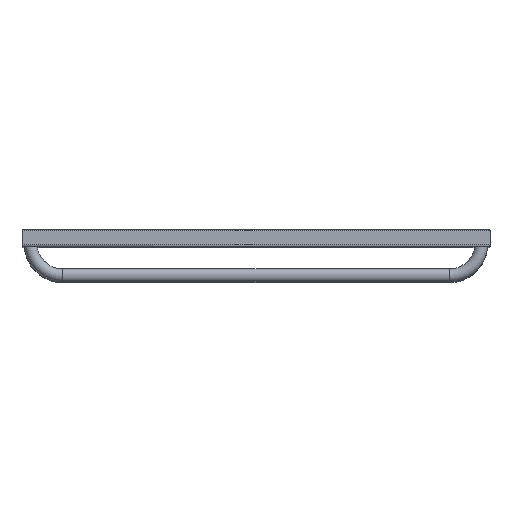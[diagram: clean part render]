
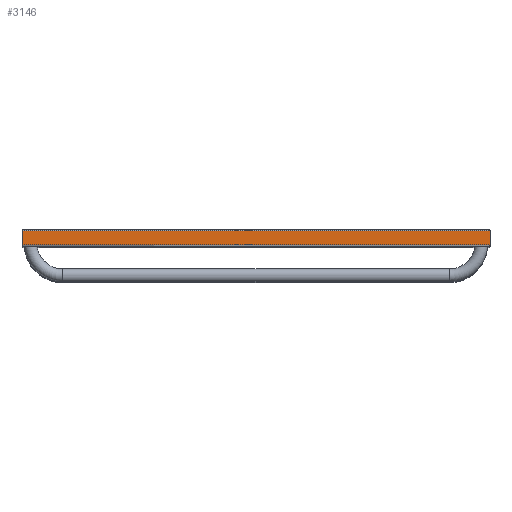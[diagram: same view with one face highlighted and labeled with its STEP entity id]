
A CAD part, top view. The second image highlights one B-rep face of the part: STEP entity #3146.
In plain terms, the highlighted planar face has unit normal (0, 0, 1).
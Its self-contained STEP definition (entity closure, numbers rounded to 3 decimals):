
#243=CARTESIAN_POINT('',(400.0,12.,1055.0));
#244=VERTEX_POINT('',#243);
#251=CARTESIAN_POINT('',(400.0,-12.,1055.0));
#252=VERTEX_POINT('',#251);
#253=CARTESIAN_POINT('',(400.0,12.,1055.0));
#254=DIRECTION('',(0.0,-1.0,0.0));
#255=VECTOR('',#254,24.);
#256=LINE('',#253,#255);
#257=EDGE_CURVE('',#244,#252,#256,.T.);
#2997=CARTESIAN_POINT('',(-400.0,12.,1055.0));
#2998=VERTEX_POINT('',#2997);
#2999=CARTESIAN_POINT('',(-400.0,12.,1055.0));
#3000=DIRECTION('',(1.0,0.0,0.0));
#3001=VECTOR('',#3000,800.0);
#3002=LINE('',#2999,#3001);
#3003=EDGE_CURVE('',#2998,#244,#3002,.T.);
#3041=CARTESIAN_POINT('',(-400.0,-12.,1055.0));
#3042=VERTEX_POINT('',#3041);
#3049=CARTESIAN_POINT('',(-400.0,-12.,1055.0));
#3050=DIRECTION('',(0.0,1.0,0.0));
#3051=VECTOR('',#3050,24.);
#3052=LINE('',#3049,#3051);
#3053=EDGE_CURVE('',#3042,#2998,#3052,.T.);
#3105=CARTESIAN_POINT('',(400.0,-12.,1055.0));
#3106=DIRECTION('',(-1.0,0.0,0.0));
#3107=VECTOR('',#3106,800.0);
#3108=LINE('',#3105,#3107);
#3109=EDGE_CURVE('',#252,#3042,#3108,.T.);
#3135=CARTESIAN_POINT('',(385.,0.,1055.0));
#3136=DIRECTION('',(0.0,0.0,1.0));
#3137=DIRECTION('',(1.0,0.0,0.0));
#3138=AXIS2_PLACEMENT_3D('',#3135,#3136,#3137);
#3139=PLANE('',#3138);
#3140=ORIENTED_EDGE('',*,*,#3003,.F.);
#3141=ORIENTED_EDGE('',*,*,#3053,.F.);
#3142=ORIENTED_EDGE('',*,*,#3109,.F.);
#3143=ORIENTED_EDGE('',*,*,#257,.F.);
#3144=EDGE_LOOP('',(#3140,#3141,#3142,#3143));
#3145=FACE_OUTER_BOUND('',#3144,.T.);
#3146=ADVANCED_FACE('',(#3145),#3139,.T.);
